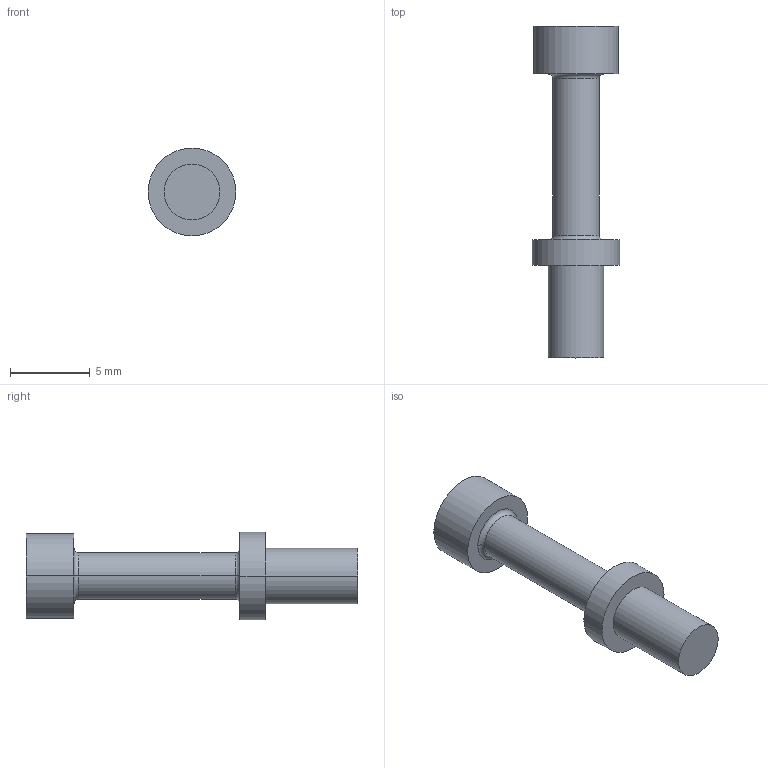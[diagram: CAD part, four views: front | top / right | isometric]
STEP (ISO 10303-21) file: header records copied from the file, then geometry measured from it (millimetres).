
FILE_DESCRIPTION (( 'STEP AP203' ), '1' );
FILE_NAME ('Montiert L.step', '2022-01-13T11:37:51', ( '' ), ( '' ), 'SwSTEP 2.0', 'SolidWorks 2021', '' );
FILE_SCHEMA (( 'CONFIG_CONTROL_DESIGN' ));
Length unit declared in the file: millimetre
Products named in the file (1): Montiert L
Bounding box: 5.5 x 20.8 x 5.5 mm (x, y, z)
Volume: 229.1 mm3; surface area: 312.3 mm2
Topology: 1 solids, 1 shells, 17 faces, 32 edges, 20 vertices
Faces by surface type: cylinder 8, plane 5, torus 4
Entity records: 515 total; most frequent: DIRECTION 92, CARTESIAN_POINT 70, ORIENTED_EDGE 64, AXIS2_PLACEMENT_3D 42, EDGE_CURVE 32, CIRCLE 24, VERTEX_POINT 20, EDGE_LOOP 20
